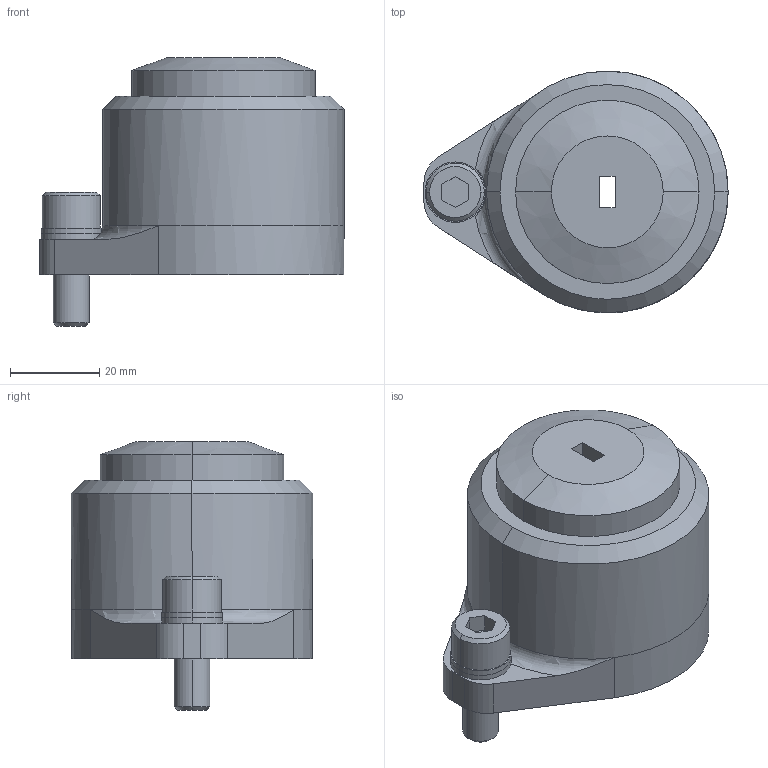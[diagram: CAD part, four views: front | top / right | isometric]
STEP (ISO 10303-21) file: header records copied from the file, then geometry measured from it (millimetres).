
FILE_DESCRIPTION(/* description */ (''),/* implementation_level */ '2;1');
FILE_NAME(/* name */ '3d_sprd16-g-p7.00-w3.50-k0_05417_r00.stp',/* time_stamp */ '2011-01-10T14:10:06+09:00',/* author */ ('MISUMI'),/* organization */ (''),/* preprocessor_version */ 'ST-DEVELOPER v11',/* originating_system */ 'UGS - NX 5.0',/* authorisation */ '');
FILE_SCHEMA (('CONFIG_CONTROL_DESIGN'));
Length unit declared in the file: millimetre
Products named in the file (1): 3d_sprd16-g-p7.00-w3.50-k0_05417_r00
Bounding box: 68 x 54 x 60.1 mm (x, y, z)
Volume: 92565.2 mm3; surface area: 35480.1 mm2
Topology: 6 solids, 6 shells, 76 faces, 170 edges, 110 vertices
Faces by surface type: cylinder 36, plane 30, cone 8, torus 2
Entity records: 2250 total; most frequent: DIRECTION 404, CARTESIAN_POINT 377, ORIENTED_EDGE 340, EDGE_CURVE 170, AXIS2_PLACEMENT_3D 161, VERTEX_POINT 110, EDGE_LOOP 92, CIRCLE 84
